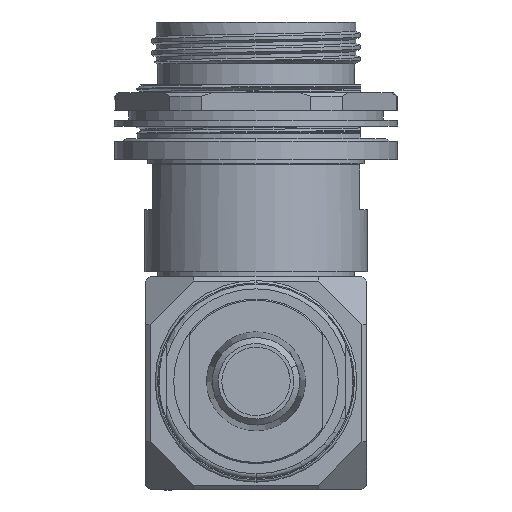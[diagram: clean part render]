
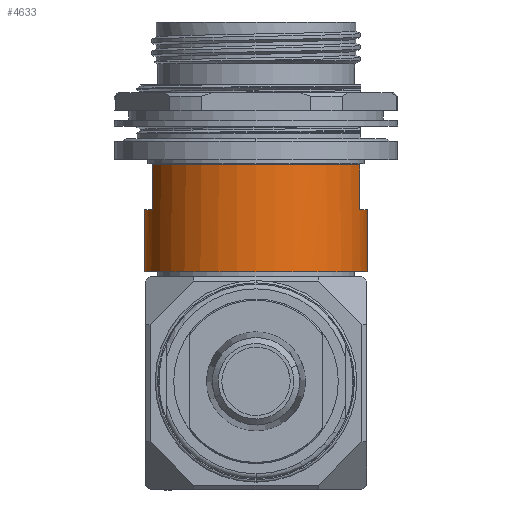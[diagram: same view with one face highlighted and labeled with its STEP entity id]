
A CAD part, front view. The second image highlights one B-rep face of the part: STEP entity #4633.
In plain terms, the highlighted cylindrical face has radius 23.622 mm (diameter 47.244 mm), a partial arc.
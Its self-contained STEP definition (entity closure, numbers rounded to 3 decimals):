
#55 = DIRECTION ( 'NONE',  ( 0., 0., 1. ) ) ;
#134 = DIRECTION ( 'NONE',  ( 0., 0., -1. ) ) ;
#695 = CARTESIAN_POINT ( 'NONE',  ( 23.622, 0., -39.853 ) ) ;
#787 = EDGE_CURVE ( 'NONE', #1212, #18948, #7602, .T. ) ;
#850 = CARTESIAN_POINT ( 'NONE',  ( -21.971, -8.676, -30.328 ) ) ;
#1212 = VERTEX_POINT ( 'NONE', #695 ) ;
#1392 = DIRECTION ( 'NONE',  ( 0., 0., -1. ) ) ;
#1436 = EDGE_CURVE ( 'NONE', #18948, #14563, #14556, .T. ) ;
#1509 = CARTESIAN_POINT ( 'NONE',  ( 0., 0., -39.853 ) ) ;
#2000 = AXIS2_PLACEMENT_3D ( 'NONE', #1509, #10508, #4415 ) ;
#2326 = ORIENTED_EDGE ( 'NONE', *, *, #787, .F. ) ;
#2796 = DIRECTION ( 'NONE',  ( 1., 0., 0. ) ) ;
#4331 = LINE ( 'NONE', #12221, #7586 ) ;
#4415 = DIRECTION ( 'NONE',  ( 1., 0., 0. ) ) ;
#4551 = CIRCLE ( 'NONE', #2000, 23.622 ) ;
#4633 = ADVANCED_FACE ( 'NONE', ( #18253 ), #15237, .T. ) ;
#4642 = DIRECTION ( 'NONE',  ( 0., 0., 1. ) ) ;
#4843 = DIRECTION ( 'NONE',  ( 1., 0., 0. ) ) ;
#5236 = EDGE_CURVE ( 'NONE', #12228, #14563, #4331, .T. ) ;
#6036 = DIRECTION ( 'NONE',  ( 0., 0., -1. ) ) ;
#6930 = ORIENTED_EDGE ( 'NONE', *, *, #16878, .F. ) ;
#7586 = VECTOR ( 'NONE', #6036, 1000. ) ;
#7602 = LINE ( 'NONE', #16571, #7865 ) ;
#7825 = ORIENTED_EDGE ( 'NONE', *, *, #12739, .F. ) ;
#7865 = VECTOR ( 'NONE', #13578, 1000. ) ;
#7951 = CARTESIAN_POINT ( 'NONE',  ( -23.622, 0., -53.01 ) ) ;
#8061 = DIRECTION ( 'NONE',  ( 1., 0., 0. ) ) ;
#8264 = VECTOR ( 'NONE', #134, 1000. ) ;
#8322 = EDGE_CURVE ( 'NONE', #18322, #19240, #18537, .T. ) ;
#8543 = EDGE_CURVE ( 'NONE', #12242, #18595, #15323, .T. ) ;
#8586 = EDGE_LOOP ( 'NONE', ( #7825, #9691, #19796, #2326, #6930, #14086, #19123, #11905 ) ) ;
#9164 = DIRECTION ( 'NONE',  ( 0., 1., 0. ) ) ;
#9352 = DIRECTION ( 'NONE',  ( 0., 0., -1. ) ) ;
#9691 = ORIENTED_EDGE ( 'NONE', *, *, #5236, .T. ) ;
#10508 = DIRECTION ( 'NONE',  ( 0., 0., 1. ) ) ;
#10671 = CARTESIAN_POINT ( 'NONE',  ( 23.622, 0., -53.01 ) ) ;
#10946 = CARTESIAN_POINT ( 'NONE',  ( -21.971, -8.676, -30.328 ) ) ;
#11074 = AXIS2_PLACEMENT_3D ( 'NONE', #12246, #18350, #8061 ) ;
#11899 = CARTESIAN_POINT ( 'NONE',  ( 0., 0., -53.01 ) ) ;
#11905 = ORIENTED_EDGE ( 'NONE', *, *, #8322, .F. ) ;
#12028 = AXIS2_PLACEMENT_3D ( 'NONE', #11899, #1392, #2796 ) ;
#12221 = CARTESIAN_POINT ( 'NONE',  ( -23.622, 0., -30.328 ) ) ;
#12228 = VERTEX_POINT ( 'NONE', #17091 ) ;
#12242 = VERTEX_POINT ( 'NONE', #12703 ) ;
#12246 = CARTESIAN_POINT ( 'NONE',  ( 0., 0., -30.328 ) ) ;
#12703 = CARTESIAN_POINT ( 'NONE',  ( 21.971, -8.676, -30.328 ) ) ;
#12739 = EDGE_CURVE ( 'NONE', #12228, #18322, #18219, .T. ) ;
#12802 = AXIS2_PLACEMENT_3D ( 'NONE', #15436, #55, #9164 ) ;
#13067 = CIRCLE ( 'NONE', #18495, 23.622 ) ;
#13578 = DIRECTION ( 'NONE',  ( 0., 0., -1. ) ) ;
#14086 = ORIENTED_EDGE ( 'NONE', *, *, #8543, .F. ) ;
#14556 = CIRCLE ( 'NONE', #12028, 23.622 ) ;
#14563 = VERTEX_POINT ( 'NONE', #7951 ) ;
#14749 = CARTESIAN_POINT ( 'NONE',  ( 21.971, -8.676, -39.853 ) ) ;
#15237 = CYLINDRICAL_SURFACE ( 'NONE', #11074, 23.622 ) ;
#15323 = LINE ( 'NONE', #18637, #8264 ) ;
#15436 = CARTESIAN_POINT ( 'NONE',  ( 0., 0., -39.853 ) ) ;
#15456 = CARTESIAN_POINT ( 'NONE',  ( -21.971, -8.676, -39.853 ) ) ;
#16571 = CARTESIAN_POINT ( 'NONE',  ( 23.622, 0., -30.328 ) ) ;
#16878 = EDGE_CURVE ( 'NONE', #18595, #1212, #4551, .T. ) ;
#17091 = CARTESIAN_POINT ( 'NONE',  ( -23.622, 0., -39.853 ) ) ;
#18219 = CIRCLE ( 'NONE', #12802, 23.622 ) ;
#18253 = FACE_OUTER_BOUND ( 'NONE', #8586, .T. ) ;
#18322 = VERTEX_POINT ( 'NONE', #15456 ) ;
#18350 = DIRECTION ( 'NONE',  ( 0., 0., -1. ) ) ;
#18495 = AXIS2_PLACEMENT_3D ( 'NONE', #18546, #9352, #4843 ) ;
#18537 = LINE ( 'NONE', #10946, #18797 ) ;
#18546 = CARTESIAN_POINT ( 'NONE',  ( 0., 0., -30.328 ) ) ;
#18595 = VERTEX_POINT ( 'NONE', #14749 ) ;
#18637 = CARTESIAN_POINT ( 'NONE',  ( 21.971, -8.676, -30.328 ) ) ;
#18797 = VECTOR ( 'NONE', #4642, 1000. ) ;
#18948 = VERTEX_POINT ( 'NONE', #10671 ) ;
#19123 = ORIENTED_EDGE ( 'NONE', *, *, #19681, .T. ) ;
#19240 = VERTEX_POINT ( 'NONE', #850 ) ;
#19681 = EDGE_CURVE ( 'NONE', #12242, #19240, #13067, .T. ) ;
#19796 = ORIENTED_EDGE ( 'NONE', *, *, #1436, .F. ) ;
